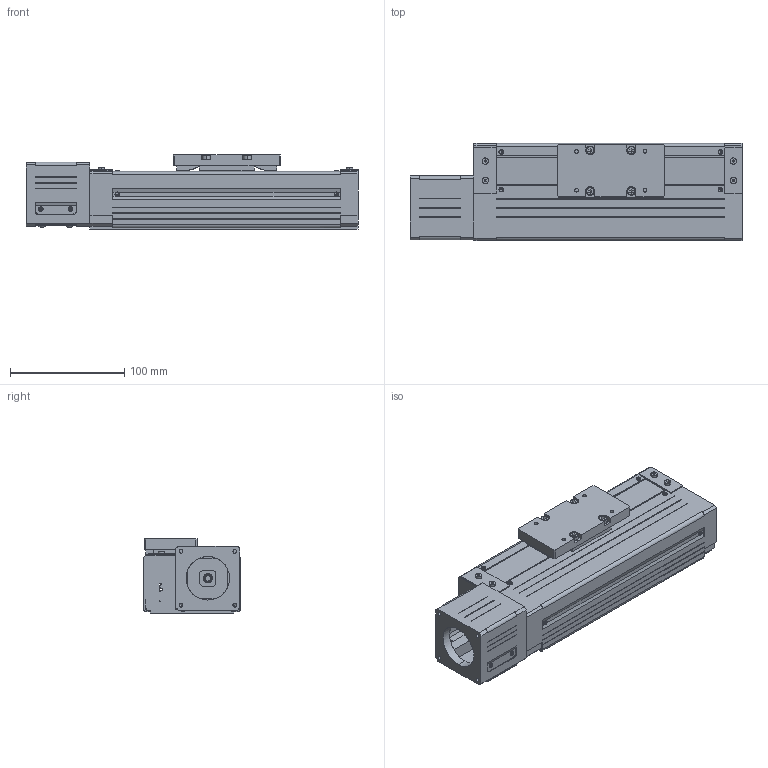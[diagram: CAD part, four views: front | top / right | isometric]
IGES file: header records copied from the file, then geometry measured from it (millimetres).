
Global section: file name: No Iges File Name specified; native system: AutoDesk Inventor R10; preprocessor: AutoDesk Inventor Iges Exporter R10; author: No Author specified; organization: No Organization specified; date: 20110701.171503; units: millimetre
Bounding box: 291 x 85 x 65 mm (x, y, z)
Surface area: 193944.2 mm2 (no closed solid volume)
Topology: 0 solids, 0 shells, 938 faces, 5762 edges, 5742 vertices
Faces by surface type: bspline 938
